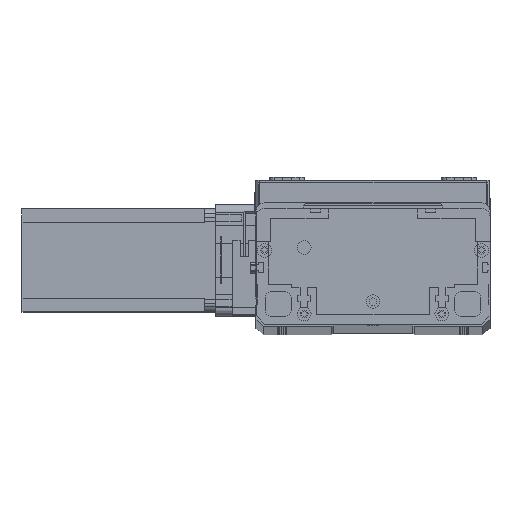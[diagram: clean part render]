
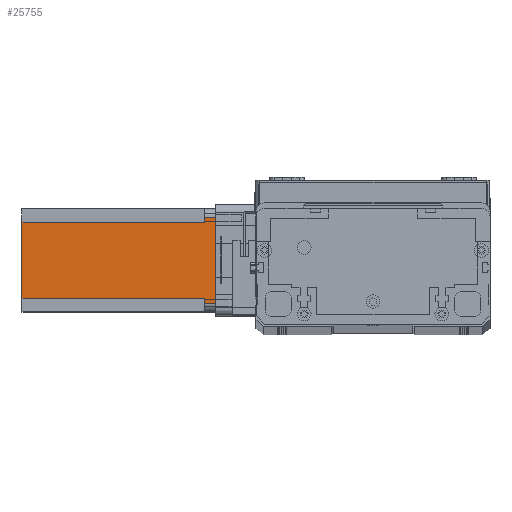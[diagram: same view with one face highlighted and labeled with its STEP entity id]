
A CAD part, top view. The second image highlights one B-rep face of the part: STEP entity #25755.
In plain terms, the highlighted planar face has unit normal (0, 0, 1) as drawn and (0, -1, 0) by its records, which use the part's own axes.
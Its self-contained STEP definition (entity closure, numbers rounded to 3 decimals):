
#715 = DIRECTION ( 'NONE',  ( 1., 0., 0. ) ) ;
#1818 = VECTOR ( 'NONE', #7438, 1000. ) ;
#3076 = ORIENTED_EDGE ( 'NONE', *, *, #4822, .F. ) ;
#3303 = DIRECTION ( 'NONE',  ( 0., 0., -1. ) ) ;
#3587 = CARTESIAN_POINT ( 'NONE',  ( 55., 0., 0. ) ) ;
#3615 = CARTESIAN_POINT ( 'NONE',  ( 52., 0., -112.5 ) ) ;
#3818 = CARTESIAN_POINT ( 'NONE',  ( 52., 0., -6.5 ) ) ;
#4212 = EDGE_CURVE ( 'NONE', #15732, #8683, #11474, .T. ) ;
#4380 = VERTEX_POINT ( 'NONE', #26378 ) ;
#4419 = EDGE_CURVE ( 'NONE', #8683, #5479, #6590, .T. ) ;
#4608 = EDGE_CURVE ( 'NONE', #7667, #8853, #7626, .T. ) ;
#4733 = EDGE_CURVE ( 'NONE', #27481, #8853, #15851, .T. ) ;
#4822 = EDGE_CURVE ( 'NONE', #22455, #27481, #23691, .T. ) ;
#4988 = CARTESIAN_POINT ( 'NONE',  ( 5., 0., -6.5 ) ) ;
#5191 = CARTESIAN_POINT ( 'NONE',  ( 5., 0., 0. ) ) ;
#5347 = EDGE_CURVE ( 'NONE', #22455, #4380, #7946, .T. ) ;
#5479 = VERTEX_POINT ( 'NONE', #3587 ) ;
#5481 = EDGE_CURVE ( 'NONE', #15732, #4380, #21769, .T. ) ;
#5570 = VECTOR ( 'NONE', #715, 1000. ) ;
#6590 = LINE ( 'NONE', #22489, #11797 ) ;
#6816 = CARTESIAN_POINT ( 'NONE',  ( 52., 0., -6.5 ) ) ;
#7189 = DIRECTION ( 'NONE',  ( 1., 0., 0. ) ) ;
#7245 = CARTESIAN_POINT ( 'NONE',  ( 0., 0., -112.5 ) ) ;
#7410 = CARTESIAN_POINT ( 'NONE',  ( 5., 0., -112.5 ) ) ;
#7438 = DIRECTION ( 'NONE',  ( 0., 0., -1. ) ) ;
#7626 = LINE ( 'NONE', #7410, #1818 ) ;
#7667 = VERTEX_POINT ( 'NONE', #5191 ) ;
#7946 = LINE ( 'NONE', #7245, #25590 ) ;
#8683 = VERTEX_POINT ( 'NONE', #13200 ) ;
#8853 = VERTEX_POINT ( 'NONE', #4988 ) ;
#9585 = DIRECTION ( 'NONE',  ( 0., -1., 0. ) ) ;
#9847 = CARTESIAN_POINT ( 'NONE',  ( 8., 0., -6.5 ) ) ;
#10081 = VECTOR ( 'NONE', #15887, 1000. ) ;
#11474 = LINE ( 'NONE', #6816, #5570 ) ;
#11797 = VECTOR ( 'NONE', #22019, 1000. ) ;
#12482 = ORIENTED_EDGE ( 'NONE', *, *, #4608, .T. ) ;
#13138 = VECTOR ( 'NONE', #22594, 1000. ) ;
#13200 = CARTESIAN_POINT ( 'NONE',  ( 55., 0., -6.5 ) ) ;
#13241 = DIRECTION ( 'NONE',  ( 1., 0., 0. ) ) ;
#14405 = ORIENTED_EDGE ( 'NONE', *, *, #21360, .F. ) ;
#14982 = FACE_OUTER_BOUND ( 'NONE', #23336, .T. ) ;
#15732 = VERTEX_POINT ( 'NONE', #3818 ) ;
#15851 = LINE ( 'NONE', #25668, #10081 ) ;
#15887 = DIRECTION ( 'NONE',  ( -1., 0., 0. ) ) ;
#16146 = VECTOR ( 'NONE', #3303, 1000. ) ;
#17896 = LINE ( 'NONE', #25803, #23392 ) ;
#18244 = ORIENTED_EDGE ( 'NONE', *, *, #4733, .F. ) ;
#21360 = EDGE_CURVE ( 'NONE', #7667, #5479, #17896, .T. ) ;
#21623 = ORIENTED_EDGE ( 'NONE', *, *, #5481, .F. ) ;
#21769 = LINE ( 'NONE', #3615, #16146 ) ;
#22019 = DIRECTION ( 'NONE',  ( 0., 0., 1. ) ) ;
#22304 = PLANE ( 'NONE',  #24623 ) ;
#22455 = VERTEX_POINT ( 'NONE', #24946 ) ;
#22489 = CARTESIAN_POINT ( 'NONE',  ( 55., 0., -112.5 ) ) ;
#22594 = DIRECTION ( 'NONE',  ( 0., 0., 1. ) ) ;
#22663 = CARTESIAN_POINT ( 'NONE',  ( 8., 0., -112.5 ) ) ;
#23192 = ORIENTED_EDGE ( 'NONE', *, *, #5347, .T. ) ;
#23250 = ORIENTED_EDGE ( 'NONE', *, *, #4419, .T. ) ;
#23336 = EDGE_LOOP ( 'NONE', ( #24547, #23250, #14405, #12482, #18244, #3076, #23192, #21623 ) ) ;
#23392 = VECTOR ( 'NONE', #13241, 1000. ) ;
#23691 = LINE ( 'NONE', #22663, #13138 ) ;
#24411 = DIRECTION ( 'NONE',  ( 0., 0., -1. ) ) ;
#24547 = ORIENTED_EDGE ( 'NONE', *, *, #4212, .T. ) ;
#24623 = AXIS2_PLACEMENT_3D ( 'NONE', #26371, #9585, #24411 ) ;
#24946 = CARTESIAN_POINT ( 'NONE',  ( 8., 0., -112.5 ) ) ;
#25590 = VECTOR ( 'NONE', #7189, 1000. ) ;
#25668 = CARTESIAN_POINT ( 'NONE',  ( 8., 0., -6.5 ) ) ;
#25755 = ADVANCED_FACE ( 'NONE', ( #14982 ), #22304, .T. ) ;
#25803 = CARTESIAN_POINT ( 'NONE',  ( 0., 0., 0. ) ) ;
#26371 = CARTESIAN_POINT ( 'NONE',  ( 0., 0., -112.5 ) ) ;
#26378 = CARTESIAN_POINT ( 'NONE',  ( 52., 0., -112.5 ) ) ;
#27481 = VERTEX_POINT ( 'NONE', #9847 ) ;
